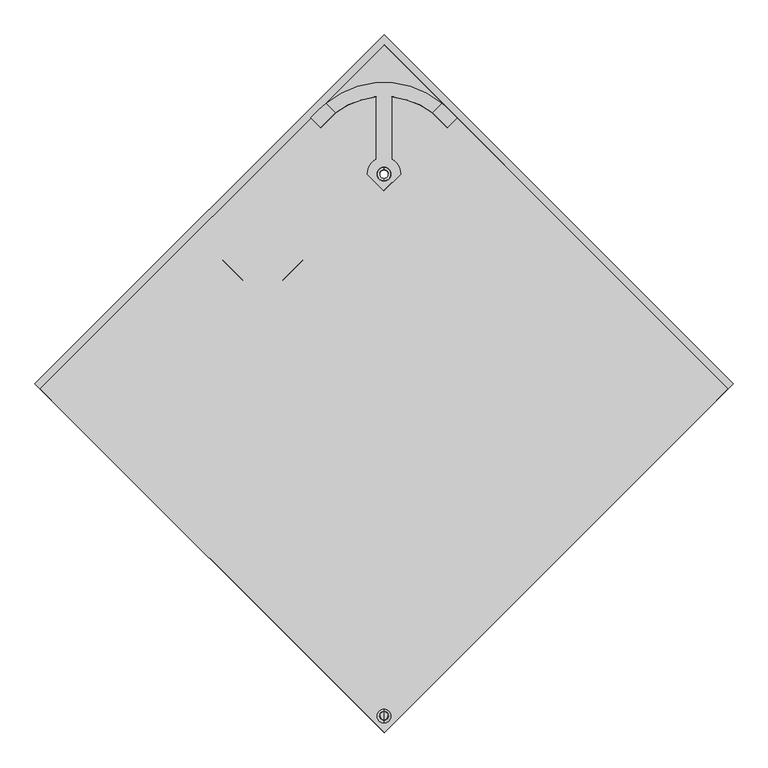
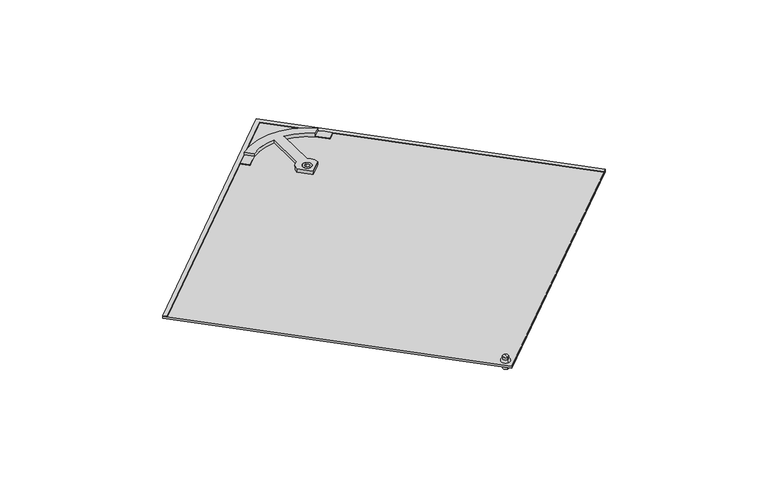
"""IFC4 building model written with IfcOpenShell, lengths in millimetres: proxy geometry, Roofing_Solar-Panels_SunStyle_Shingle-Sunstyle : Shingle Sunstyle - Black."""

from ifc_helpers import new_model, si_unit, point, frame, frame_2d, origin, place, context, project, spatial, polyline, circle_curve, ellipse_curve, trimmed, segment, composite_curve, outline, extrude, source, transform, mapped, element, save
from ifc_brep_helpers import plane_surface, cylinder_surface, revolved_surface, advanced_brep


def generic_models_167ef6fe(model_context):
    return source(origin(), model_context, "Body", "SolidModel", [
        advanced_brep(
        [(0.0, -592.202006, 26.2215343), (0.0, -578.8689254, 25.9982384), (0.0, -579.2372345, 4.0063691), (0.0, -592.5703151, 4.229665), (0.0, -597.7012348, 26.3136327), (0.0, -573.3696966, 25.90614), (0.0, -592.7522385, 31.2274395), (0.0, -578.1513756, 30.9829114), (0.0, -585.3177786, 39.1080636), (0.0, -578.0173471, 38.9857996), (0.0, -592.6182101, 39.2303277), (0.0, -585.9037748, 4.118017)],
        [
            (0, 1, circle_curve(frame((0.0, -585.5354657, 26.1098864), z_axis=(0.0, -0.016745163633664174, -0.9998597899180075), x_axis=(0.0, 0.9998597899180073, -0.01674516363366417)), 6.6674751)),
            (1, 2),
            (2, 3, circle_curve(frame((0.0, -585.9037748, 4.118017), z_axis=(0.0, 0.016745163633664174, 0.9998597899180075), x_axis=(0.0, 0.9998597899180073, -0.01674516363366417)), 6.6674751)),
            (3, 0),
            (1, 0, circle_curve(frame((0.0, -585.5354657, 26.1098864), z_axis=(0.0, -0.016745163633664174, -0.9998597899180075), x_axis=(0.0, 0.9998597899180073, -0.01674516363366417)), 6.6674751)),
            (3, 2, circle_curve(frame((0.0, -585.9037748, 4.118017), z_axis=(0.0, 0.016745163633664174, 0.9998597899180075), x_axis=(0.0, 0.9998597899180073, -0.01674516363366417)), 6.6674751)),
            (4, 5, circle_curve(frame((0.0, -585.5354657, 26.1098864), z_axis=(0.0, -0.016745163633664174, -0.9998597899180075), x_axis=(0.0, 0.9998597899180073, -0.01674516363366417)), 12.1674751)),
            (5, 1),
            (0, 4),
            (5, 4, circle_curve(frame((0.0, -585.5354657, 26.1098864), z_axis=(0.0, -0.016745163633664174, -0.9998597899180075), x_axis=(0.0, 0.9998597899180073, -0.01674516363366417)), 12.1674751)),
            (6, 7, circle_curve(frame((0.0, -585.451807, 31.1051755), z_axis=(0.0, -0.016745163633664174, -0.9998597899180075), x_axis=(0.0, 0.9998597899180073, -0.01674516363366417)), 7.3014552)),
            (7, 5, circle_curve(frame((0.0, -578.4555735, 25.90614), z_axis=(-1.0, 0.0, 0.0), x_axis=(0.0, -1.0, 0.0)), 5.0858769)),
            (4, 6, circle_curve(frame((0.0, -592.6182101, 26.1433289), z_axis=(-1.0, 0.0, 0.0), x_axis=(0.0, 0.9994391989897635, -0.03348563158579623)), 5.0858769)),
            (7, 6, circle_curve(frame((0.0, -585.451807, 31.1051755), z_axis=(0.0, -0.016745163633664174, -0.9998597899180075), x_axis=(0.0, 0.9998597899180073, -0.01674516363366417)), 7.3014552)),
            (8, 9),
            (9, 10, circle_curve(frame((0.0, -585.3177786, 39.1080636), z_axis=(0.0, 0.016745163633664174, 0.9998597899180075), x_axis=(0.0, 0.9998597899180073, -0.01674516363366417)), 7.3014552)),
            (10, 8),
            (10, 9, circle_curve(frame((0.0, -585.3177786, 39.1080636), z_axis=(0.0, 0.016745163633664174, 0.9998597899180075), x_axis=(0.0, 0.9998597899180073, -0.01674516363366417)), 7.3014552)),
            (2, 11),
            (11, 3),
            (9, 7),
            (6, 10),
        ],
        [
            cylinder_surface(frame((0.0, -585.3177786, 39.1080636), z_axis=(0.0, 0.01674516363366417, 0.9998597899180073), x_axis=(0.0, 0.9998597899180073, -0.01674516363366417)), 6.6674751),
            plane_surface(frame((0.0, -585.5354657, 26.1098864), z_axis=(0.0, -0.016745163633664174, -0.9998597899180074), x_axis=(0.0, 0.9998597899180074, -0.016745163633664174))),
            revolved_surface(trimmed(ellipse_curve(frame((0.0, -578.4555735, 25.90614), z_axis=(1.0, 0.0, 0.0), x_axis=(0.0, -1.0, 0.0)), 5.0858769, 5.0858769), [point((0.0, -573.3696966, 25.90614))], [point((0.0, -578.1513756, 30.9829114))], True, "CARTESIAN"), (0.0, -585.3177786, 39.1080636), (0.0, 0.01674516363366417, 0.9998597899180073)),
            plane_surface(frame((0.0, -585.3177786, 39.1080636), z_axis=(0.0, 0.016745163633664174, 0.9998597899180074), x_axis=(0.0, 0.9998597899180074, -0.016745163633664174))),
            plane_surface(frame((0.0, -585.9037748, 4.118017), z_axis=(0.0, -0.016745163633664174, -0.9998597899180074), x_axis=(0.0, 0.9998597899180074, -0.016745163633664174))),
            cylinder_surface(frame((0.0, -585.3177786, 39.1080636), z_axis=(0.0, 0.01674516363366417, 0.9998597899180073), x_axis=(0.0, 0.9998597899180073, -0.01674516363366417)), 7.3014552),
        ],
        [
            (0, [[1, 2, 3, 4]]),
            (0, [[5, -4, 6, -2]]),
            (1, [[7, 8, -1, 9]]),
            (1, [[10, -9, -5, -8]]),
            (2, [[11, 12, -7, 13]]),
            (2, [[14, -13, -10, -12]]),
            (3, [[15, 16, 17]]),
            (3, [[-17, 18, -15]]),
            (4, [[-3, 19, 20]]),
            (4, [[-6, -20, -19]]),
            (5, [[-16, 21, -11, 22]]),
            (5, [[-18, -22, -14, -21]]),
        ],
    ),
        advanced_brep(
        [(0.0, 361.8961325, 20.2441668), (0.0, 377.2289335, 19.9873805), (0.0, 381.7283021, 19.9120273), (0.0, 357.3967639, 20.31952), (0.0, 361.6282103, 4.2464102), (0.0, 376.9610105, 3.9896239), (0.0, 357.1288413, 4.3217634), (0.0, 381.4603795, 3.9142707)],
        [
            (0, 1, circle_curve(frame((0.0, 369.562533, 20.1157737), z_axis=(0.0, -0.016745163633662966, -0.9998597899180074), x_axis=(0.0, 0.9998597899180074, -0.016745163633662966)), 7.6674755)),
            (1, 2),
            (2, 3, circle_curve(frame((0.0, 369.562533, 20.1157737), z_axis=(0.0, 0.016745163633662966, 0.9998597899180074), x_axis=(0.0, 0.9998597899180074, -0.016745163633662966)), 12.1674751)),
            (3, 0),
            (1, 0, circle_curve(frame((0.0, 369.562533, 20.1157737), z_axis=(0.0, -0.016745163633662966, -0.9998597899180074), x_axis=(0.0, 0.9998597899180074, -0.016745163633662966)), 7.6674755)),
            (3, 2, circle_curve(frame((0.0, 369.562533, 20.1157737), z_axis=(0.0, 0.016745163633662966, 0.9998597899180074), x_axis=(0.0, 0.9998597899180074, -0.016745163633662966)), 12.1674751)),
            (4, 5, circle_curve(frame((0.0, 369.2946104, 4.118017), z_axis=(0.0, -0.016745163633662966, -0.9998597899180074), x_axis=(0.0, 0.9998597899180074, -0.016745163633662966)), 7.6674751)),
            (5, 1),
            (0, 4),
            (5, 4, circle_curve(frame((0.0, 369.2946104, 4.118017), z_axis=(0.0, -0.016745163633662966, -0.9998597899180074), x_axis=(0.0, 0.9998597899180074, -0.016745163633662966)), 7.6674751)),
            (6, 7, circle_curve(frame((0.0, 369.2946104, 4.118017), z_axis=(0.0, -0.016745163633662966, -0.9998597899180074), x_axis=(0.0, 0.9998597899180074, -0.016745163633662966)), 12.1674751)),
            (7, 5),
            (4, 6),
            (7, 6, circle_curve(frame((0.0, 369.2946104, 4.118017), z_axis=(0.0, -0.016745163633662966, -0.9998597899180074), x_axis=(0.0, 0.9998597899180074, -0.016745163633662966)), 12.1674751)),
            (2, 7),
            (6, 3),
        ],
        [
            plane_surface(frame((0.0, 369.562533, 20.1157737), z_axis=(0.0, 0.016745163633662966, 0.9998597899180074), x_axis=(0.0, 0.9998597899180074, -0.016745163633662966))),
            revolved_surface(polyline([(0.0, 377.2289330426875, 19.987380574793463), (0.0, 376.96101042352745, 3.989623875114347)]), (0.0, 369.562533, 20.1157737), (0.0, 0.016745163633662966, 0.9998597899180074)),
            plane_surface(frame((0.0, 369.2946104, 4.118017), z_axis=(0.0, -0.016745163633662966, -0.9998597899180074), x_axis=(0.0, 0.9998597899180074, -0.016745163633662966))),
            cylinder_surface(frame((0.0, 369.562533, 20.1157737), z_axis=(0.0, 0.016745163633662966, 0.9998597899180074), x_axis=(0.0, 0.9998597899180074, -0.016745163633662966)), 12.1674751),
        ],
        [
            (0, [[1, 2, 3, 4]]),
            (0, [[5, -4, 6, -2]]),
            (1, [[7, 8, -1, 9]]),
            (1, [[10, -9, -5, -8]]),
            (2, [[11, 12, -7, 13]]),
            (2, [[14, -13, -10, -12]]),
            (3, [[-3, 15, -11, 16]]),
            (3, [[-6, -16, -14, -15]]),
        ],
    ),
        extrude(outline(polyline([(0.0, -11.9999999), (0.0, 0.0), (858.0626589, 0.0), (858.1829764, 858.0626505), (870.1829763, 858.0609679), (870.0609764, -12.0), (0.0, -11.9999999)])), frame((606.7847845, -8.5982257, 16.4476231), z_axis=(0.0, 0.016745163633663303, 0.9998597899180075), x_axis=(-0.7071563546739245, 0.7069580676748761, -0.011839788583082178)), (0.0, 0.0, 1.0), 1.5),
        extrude(outline(polyline([(995.0941908, 0.0), (995.2161906, -870.0609679), (125.1552142, -870.0609678), (125.0332144, 0.0), (995.0941908, 0.0)]), holes=[composite_curve([segment(trimmed(circle_curve(frame_2d((146.1396988, -849.0730846)), 8.0), [point((140.4824479, -843.4166269))], [point((151.7969496, -854.7295422))], True, "CARTESIAN"), True, "CONTINUOUS"), segment(trimmed(circle_curve(frame_2d((146.1396988, -849.0730846)), 8.0), [point((151.7969496, -854.7295422))], [point((140.4824479, -843.4166269))], True, "CARTESIAN"), True, "CONTINUOUS")], self_intersect=False), composite_curve([segment(trimmed(circle_curve(frame_2d((821.5432581, -173.5748135)), 12.0), [point((813.0573819, -165.0901271))], [point((830.0291344, -182.0595))], True, "CARTESIAN"), True, "CONTINUOUS"), segment(trimmed(circle_curve(frame_2d((821.5432581, -173.5748135)), 12.0), [point((830.0291344, -182.0595))], [point((813.0573819, -165.0901271))], True, "CARTESIAN"), True, "CONTINUOUS")], self_intersect=False)]), frame((-703.686858, -88.6072499, 11.7867338), z_axis=(0.0, 0.01674516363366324, 0.9998597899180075), x_axis=(0.707156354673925, 0.7069580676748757, -0.011839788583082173)), (0.0, 0.0, 1.0), 6.0),
        advanced_brep(
        [(-102.0275718, 494.9998575, 18.0150106), (-84.944396, 477.9190769, 18.3010712), (-13.3, 505.8109871, 17.8339511), (-13.3, 395.9341043, 19.6741155), (-29.3894281, 369.7299846, 20.1129693), (0.0, 340.3446773, 20.6051), (29.3894281, 369.7299846, 20.1129693), (13.3, 395.9341043, 19.6741155), (13.3, 505.8109871, 17.8339511), (84.944396, 477.9190769, 18.3010712), (102.0275718, 494.9998575, 18.0150106), (-12.0, 369.7299846, 20.1129693), (12.0, 369.7299846, 20.1129693), (-102.0275718, 494.8324058, 8.0164127), (102.0275718, 494.8324058, 8.0164127), (114.2509691, 483.797483, 8.2012202), (128.9467134, 469.1058594, 8.4472683), (111.2690438, 451.4306685, 8.7432838), (84.9431983, 477.7528228, 8.3024532), (13.3, 505.6435355, 7.8353532), (13.3, 395.7666527, 9.6755176), (29.3894281, 369.562533, 10.1143714), (0.0, 340.1772257, 10.6065021), (-29.3894281, 369.562533, 10.1143714), (-13.3, 395.7666527, 9.6755176), (-13.3, 505.6435355, 7.8353532), (-84.944396, 477.7516253, 8.3024733), (-111.2690438, 451.4306685, 8.7432838), (-128.9467134, 469.1058594, 8.4472683), (-114.2509691, 483.797483, 8.2012202), (-12.0, 369.562533, 10.1143714), (12.0, 369.562533, 10.1143714), (102.0275718, 494.8742688, 10.5160622), (-102.0275718, 494.8742688, 10.5160622), (128.9467134, 469.1477223, 10.9469178), (114.2509691, 483.8393459, 10.7008697), (84.944396, 477.7934882, 10.8021227), (111.2690438, 451.4725314, 11.2429333), (-128.9467134, 469.1477223, 10.9469178), (-111.2690438, 451.4725314, 11.2429333), (-84.9431983, 477.7946858, 10.8021027), (-114.2509691, 483.8393459, 10.7008697)],
        [
            (0, 1),
            (1, 2, circle_curve(frame((0.0, 365.7229584, 20.180077), z_axis=(0.0, -0.01674516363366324, -0.9998597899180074), x_axis=(1.0, 0.0, 0.0)), 140.737522)),
            (2, 3),
            (3, 4, circle_curve(frame((0.0, 369.7299846, 20.1129693), z_axis=(0.0, 0.01674516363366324, 0.9998597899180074), x_axis=(1.0, 0.0, 0.0)), 29.3894281)),
            (4, 5),
            (5, 6),
            (6, 7, circle_curve(frame((0.0, 369.7299846, 20.1129693), z_axis=(0.0, 0.01674516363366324, 0.9998597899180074), x_axis=(1.0, 0.0, 0.0)), 29.3894281)),
            (7, 8),
            (8, 9, circle_curve(frame((0.0, 365.7229584, 20.180077), z_axis=(0.0, -0.01674516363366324, -0.9998597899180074), x_axis=(1.0, 0.0, 0.0)), 140.737522)),
            (9, 10),
            (10, 0, circle_curve(frame((0.0, 369.7299846, 20.1129693), z_axis=(0.0, 0.01674516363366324, 0.9998597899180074), x_axis=(1.0, 0.0, 0.0)), 161.57527)),
            (11, 12, circle_curve(frame((0.0, 369.7299846, 20.1129693), z_axis=(0.0, -0.01674516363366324, -0.9998597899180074), x_axis=(1.0, 0.0, 0.0)), 12.0)),
            (12, 11, circle_curve(frame((0.0, 369.7299846, 20.1129693), z_axis=(0.0, -0.01674516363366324, -0.9998597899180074), x_axis=(1.0, 0.0, 0.0)), 12.0)),
            (13, 14, circle_curve(frame((0.0, 369.562533, 10.1143714), z_axis=(0.0, -0.01674516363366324, -0.9998597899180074), x_axis=(1.0, 0.0, 0.0)), 161.57527)),
            (14, 15, circle_curve(frame((0.0, 369.562533, 10.1143714), z_axis=(0.0, -0.01674516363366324, -0.9998597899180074), x_axis=(1.0, 0.0, 0.0)), 161.57527)),
            (15, 16),
            (16, 17),
            (17, 18),
            (18, 19, circle_curve(frame((0.0, 365.5555068, 10.1814791), z_axis=(0.0, 0.01674516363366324, 0.9998597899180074), x_axis=(1.0, 0.0, 0.0)), 140.737522)),
            (19, 20),
            (20, 21, circle_curve(frame((0.0, 369.562533, 10.1143714), z_axis=(0.0, -0.01674516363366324, -0.9998597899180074), x_axis=(1.0, 0.0, 0.0)), 29.3894281)),
            (21, 22),
            (22, 23),
            (23, 24, circle_curve(frame((0.0, 369.562533, 10.1143714), z_axis=(0.0, -0.01674516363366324, -0.9998597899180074), x_axis=(1.0, 0.0, 0.0)), 29.3894281)),
            (24, 25),
            (25, 26, circle_curve(frame((0.0, 365.5555068, 10.1814791), z_axis=(0.0, 0.01674516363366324, 0.9998597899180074), x_axis=(1.0, 0.0, 0.0)), 140.737522)),
            (26, 27),
            (27, 28),
            (28, 29),
            (29, 13, circle_curve(frame((0.0, 369.562533, 10.1143714), z_axis=(0.0, -0.01674516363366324, -0.9998597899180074), x_axis=(-1.0, 0.0, 0.0)), 161.57527)),
            (30, 31, circle_curve(frame((0.0, 369.562533, 10.1143714), z_axis=(0.0, 0.01674516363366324, 0.9998597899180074), x_axis=(1.0, 0.0, 0.0)), 12.0)),
            (31, 30, circle_curve(frame((0.0, 369.562533, 10.1143714), z_axis=(0.0, 0.01674516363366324, 0.9998597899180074), x_axis=(1.0, 0.0, 0.0)), 12.0)),
            (2, 25),
            (24, 3),
            (23, 4),
            (22, 5),
            (21, 6),
            (20, 7),
            (19, 8),
            (10, 32),
            (32, 14),
            (13, 33),
            (33, 0),
            (11, 30),
            (31, 12),
            (34, 35),
            (35, 32, circle_curve(frame((0.0, 369.6043959, 12.6140208), z_axis=(0.0, 0.01674516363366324, 0.9998597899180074), x_axis=(1.0, 0.0, 0.0)), 161.57527)),
            (32, 36),
            (36, 37),
            (37, 34),
            (38, 39),
            (39, 40),
            (40, 33),
            (33, 41, circle_curve(frame((0.0, 369.6043959, 12.6140208), z_axis=(0.0, 0.01674516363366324, 0.9998597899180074), x_axis=(-1.0, 0.0, 0.0)), 161.57527)),
            (41, 38),
            (34, 16),
            (15, 35),
            (37, 17),
            (36, 18),
            (38, 28),
            (27, 39),
            (26, 40),
            (29, 41),
            (40, 1),
            (9, 36),
        ],
        [
            plane_surface(frame((-102.0275718, 494.9998575, 18.0150106), z_axis=(0.0, 0.01674516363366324, 0.9998597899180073), x_axis=(0.7071067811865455, -0.7070076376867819, 0.011840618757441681))),
            plane_surface(frame((-102.0275718, 494.8324058, 8.0164127), z_axis=(0.0, -0.01674516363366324, -0.9998597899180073), x_axis=(-0.7071067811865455, 0.7070076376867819, -0.011840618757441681))),
            plane_surface(frame((-13.3, 505.8109871, 17.8339511), z_axis=(-1.0000000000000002, 0.0, 0.0), x_axis=(0.0, -0.01674516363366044, -0.9998597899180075))),
            cylinder_surface(frame((0.0, 369.562533, 10.1143714), z_axis=(0.0, 0.01674516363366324, 0.9998597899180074), x_axis=(1.0, 0.0, 0.0)), 29.3894281),
            plane_surface(frame((-29.3894281, 369.7299846, 20.1129693), z_axis=(-0.7071067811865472, -0.7070076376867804, 0.011840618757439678), x_axis=(0.0, -0.016745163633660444, -0.9998597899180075))),
            plane_surface(frame((0.0, 340.3446773, 20.6051), z_axis=(0.7071067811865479, -0.7070076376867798, 0.011840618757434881), x_axis=(0.0, -0.01674516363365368, -0.9998597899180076))),
            plane_surface(frame((13.3, 395.9341043, 19.6741155), z_axis=(1.0000000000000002, 0.0, 0.0), x_axis=(0.0, -0.016745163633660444, -0.9998597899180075))),
            cylinder_surface(frame((0.0, 369.562533, 10.1143714), z_axis=(0.0, 0.01674516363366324, 0.9998597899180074), x_axis=(1.0, 0.0, 0.0)), 161.57527),
            revolved_surface(polyline([(12.0, 369.562533, 10.1143714), (12.0, 369.72998463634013, 20.112969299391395)]), (0.0, 369.562533, 10.1143714), (0.0, -0.01674516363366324, -0.9998597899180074)),
            plane_surface(frame((128.9467134, 469.1477223, 10.9469178), z_axis=(0.0, 0.01674516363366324, 0.9998597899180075), x_axis=(-0.7071563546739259, 0.7069580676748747, -0.011839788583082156))),
            plane_surface(frame((128.9467134, 469.1477223, 10.9469178), z_axis=(0.7070572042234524, 0.7070572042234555, -0.011841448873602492), x_axis=(0.0, -0.016745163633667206, -0.9998597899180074))),
            plane_surface(frame((111.2690438, 451.4725314, 11.2429333), z_axis=(0.7071067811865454, -0.7070076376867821, 0.011840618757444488), x_axis=(0.0, -0.016745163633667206, -0.9998597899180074))),
            plane_surface(frame((84.9431983, 477.7946858, 10.8021027), z_axis=(-0.7071067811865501, -0.7070076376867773, 0.011840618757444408), x_axis=(0.0, -0.016745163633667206, -0.9998597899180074))),
            plane_surface(frame((-128.9467134, 469.1477223, 10.9469178), z_axis=(-0.7071067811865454, -0.7070076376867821, 0.011840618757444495), x_axis=(0.0, -0.016745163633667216, -0.9998597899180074))),
            plane_surface(frame((-111.2690438, 451.4725314, 11.2429333), z_axis=(0.7071067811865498, -0.7070076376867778, 0.011840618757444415), x_axis=(0.0, -0.016745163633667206, -0.9998597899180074))),
            cylinder_surface(frame((0.0, 369.562533, 10.1143714), z_axis=(0.0, 0.01674516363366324, 0.9998597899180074), x_axis=(-1.0, 0.0, 0.0)), 161.57527),
            plane_surface(frame((-114.2509691, 483.8393459, 10.7008697), z_axis=(-0.7070572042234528, 0.7070572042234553, -0.011841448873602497), x_axis=(0.0, -0.016745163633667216, -0.9998597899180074))),
            plane_surface(frame((-102.0275718, 494.9998575, 18.0150106), z_axis=(-0.7071067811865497, -0.7070076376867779, 0.01184061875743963), x_axis=(0.0, -0.01674516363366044, -0.9998597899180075))),
            plane_surface(frame((84.944396, 477.9190769, 18.3010712), z_axis=(0.7071067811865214, -0.7070076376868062, 0.011840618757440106), x_axis=(0.0, -0.01674516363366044, -0.9998597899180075))),
            revolved_surface(polyline([(140.737522, 365.5555068, 10.1814791), (140.737522, 365.72295843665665, 20.180077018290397)]), (0.0, 365.5555068, 10.1814791), (0.0, -0.01674516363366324, -0.9998597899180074)),
            revolved_surface(polyline([(140.737522, 365.55550679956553, 10.181479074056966), (140.737522, 365.72295843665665, 20.180077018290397)]), (0.0, 365.5555068, 10.1814791), (0.0, -0.01674516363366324, -0.9998597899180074)),
        ],
        [
            (0, [[1, 2, 3, 4, 5, 6, 7, 8, 9, 10, 11], [12, 13]]),
            (1, [[14, 15, 16, 17, 18, 19, 20, 21, 22, 23, 24, 25, 26, 27, 28, 29, 30], [31, 32]]),
            (2, [[-3, 33, -25, 34]]),
            (3, [[-4, -34, -24, 35]]),
            (4, [[-5, -35, -23, 36]]),
            (5, [[-6, -36, -22, 37]]),
            (3, [[-7, -37, -21, 38]]),
            (6, [[-8, -38, -20, 39]]),
            (7, [[-11, 40, 41, -14, 42, 43]]),
            (8, [[-12, 44, -32, 45]]),
            (8, [[-13, -45, -31, -44]]),
            (9, [[46, 47, 48, 49, 50]]),
            (9, [[51, 52, 53, 54, 55]]),
            (10, [[-46, 56, -16, 57]]),
            (11, [[-50, 58, -17, -56]]),
            (7, [[-47, -57, -15, -41]]),
            (12, [[-49, 59, -18, -58]]),
            (13, [[-51, 60, -28, 61]]),
            (14, [[-52, -61, -27, 62]]),
            (15, [[-54, -42, -30, 63]]),
            (16, [[-55, -63, -29, -60]]),
            (17, [[-1, -43, -53, 64]]),
            (18, [[-10, 65, -48, -40]]),
            (19, [[-2, -64, -62, -26, -33]]),
            (20, [[-9, -39, -19, -59, -65]]),
        ],
    ),
        extrude(outline(polyline([(100.0, 0.0), (100.0, -100.0), (0.0, -100.0), (0.0, 0.0), (100.0, 0.0)])), frame((-213.5459254, 288.1529894, -0.023834), z_axis=(0.0, 0.01674516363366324, 0.9998597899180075), x_axis=(0.7071067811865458, -0.7070076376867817, 0.011840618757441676)), (0.0, 0.0, 1.0), 5.5),
    ])


if __name__ == "__main__":
    model = new_model("IFC4")
    model_context = context("Model", 3, world=origin())
    ifc_project = project(units=[si_unit("LENGTHUNIT", "METRE", prefix="MILLI")], contexts=[model_context])
    site = spatial("IfcSite", under=ifc_project)
    building = spatial("IfcBuilding", under=site)
    placement = place(None, origin())
    generic_models_shape = generic_models_167ef6fe(model_context)
    element("IfcBuildingElementProxy", 1, Name="Roofing_Solar-Panels_SunStyle_Shingle-Sunstyle : Shingle Sunstyle - Black", ObjectType="Roofing_Solar-Panels_SunStyle_Shingle-Sunstyle : Shingle Sunstyle - Black", at=placement, inside=building, context=model_context, shape_type="MappedRepresentation", body=[
        mapped(generic_models_shape, transform((0.0, 0.0, 0.0), x_axis=(1.0, 0.0, 0.0), y_axis=(0.0, 1.0, 0.0), z_axis=(0.0, 0.0, 1.0))),
    ])
    save(model, "model.ifc")
